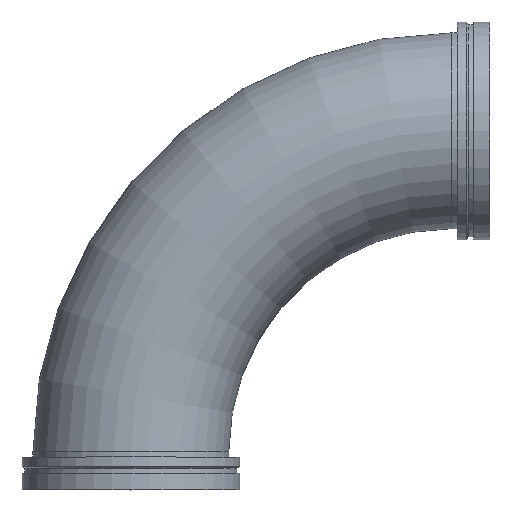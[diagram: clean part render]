
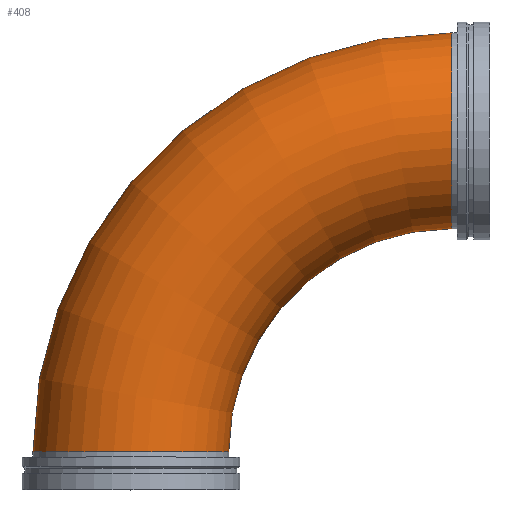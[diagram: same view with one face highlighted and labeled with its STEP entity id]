
A CAD part, top view. The second image highlights one B-rep face of the part: STEP entity #408.
In plain terms, the highlighted toroidal (fillet/blend) face has major radius 749.3 mm and minor radius 228.6 mm.
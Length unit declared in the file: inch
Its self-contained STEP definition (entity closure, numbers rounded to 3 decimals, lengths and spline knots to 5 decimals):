
#46=TOROIDAL_SURFACE('',#484,29.5,9.);
#105=FACE_OUTER_BOUND('',#129,.T.);
#129=EDGE_LOOP('',(#346,#347,#348,#349,#350,#351));
#169=CIRCLE('',#482,9.);
#170=CIRCLE('',#483,9.);
#171=CIRCLE('',#485,20.5);
#172=CIRCLE('',#486,9.);
#173=CIRCLE('',#487,9.);
#207=VERTEX_POINT('',#756);
#208=VERTEX_POINT('',#758);
#209=VERTEX_POINT('',#762);
#210=VERTEX_POINT('',#764);
#256=EDGE_CURVE('',#207,#208,#169,.T.);
#257=EDGE_CURVE('',#208,#207,#170,.T.);
#258=EDGE_CURVE('',#208,#209,#171,.T.);
#259=EDGE_CURVE('',#209,#210,#172,.T.);
#260=EDGE_CURVE('',#210,#209,#173,.T.);
#346=ORIENTED_EDGE('',*,*,#256,.F.);
#347=ORIENTED_EDGE('',*,*,#257,.F.);
#348=ORIENTED_EDGE('',*,*,#258,.T.);
#349=ORIENTED_EDGE('',*,*,#259,.T.);
#350=ORIENTED_EDGE('',*,*,#260,.T.);
#351=ORIENTED_EDGE('',*,*,#258,.F.);
#408=ADVANCED_FACE('',(#105),#46,.T.);
#482=AXIS2_PLACEMENT_3D('',#759,#617,#618);
#483=AXIS2_PLACEMENT_3D('',#760,#619,#620);
#484=AXIS2_PLACEMENT_3D('',#761,#621,#622);
#485=AXIS2_PLACEMENT_3D('',#763,#623,#624);
#486=AXIS2_PLACEMENT_3D('',#765,#625,#626);
#487=AXIS2_PLACEMENT_3D('',#766,#627,#628);
#617=DIRECTION('center_axis',(1.,0.,0.));
#618=DIRECTION('ref_axis',(0.,-1.,0.));
#619=DIRECTION('center_axis',(1.,0.,0.));
#620=DIRECTION('ref_axis',(0.,-1.,0.));
#621=DIRECTION('center_axis',(0.,0.,-1.));
#622=DIRECTION('ref_axis',(-1.,0.,0.));
#623=DIRECTION('center_axis',(0.,0.,1.));
#624=DIRECTION('ref_axis',(-1.,0.,0.));
#625=DIRECTION('center_axis',(0.,1.,0.));
#626=DIRECTION('ref_axis',(1.,0.,0.));
#627=DIRECTION('center_axis',(0.,1.,0.));
#628=DIRECTION('ref_axis',(1.,0.,0.));
#756=CARTESIAN_POINT('',(29.5,42.,0.));
#758=CARTESIAN_POINT('',(29.5,24.,0.));
#759=CARTESIAN_POINT('Origin',(29.5,33.,0.));
#760=CARTESIAN_POINT('Origin',(29.5,33.,0.));
#761=CARTESIAN_POINT('Origin',(29.5,3.5,0.));
#762=CARTESIAN_POINT('',(9.,3.5,0.));
#763=CARTESIAN_POINT('Origin',(29.5,3.5,0.));
#764=CARTESIAN_POINT('',(-9.,3.5,0.));
#765=CARTESIAN_POINT('Origin',(0.,3.5,0.));
#766=CARTESIAN_POINT('Origin',(0.,3.5,0.));
